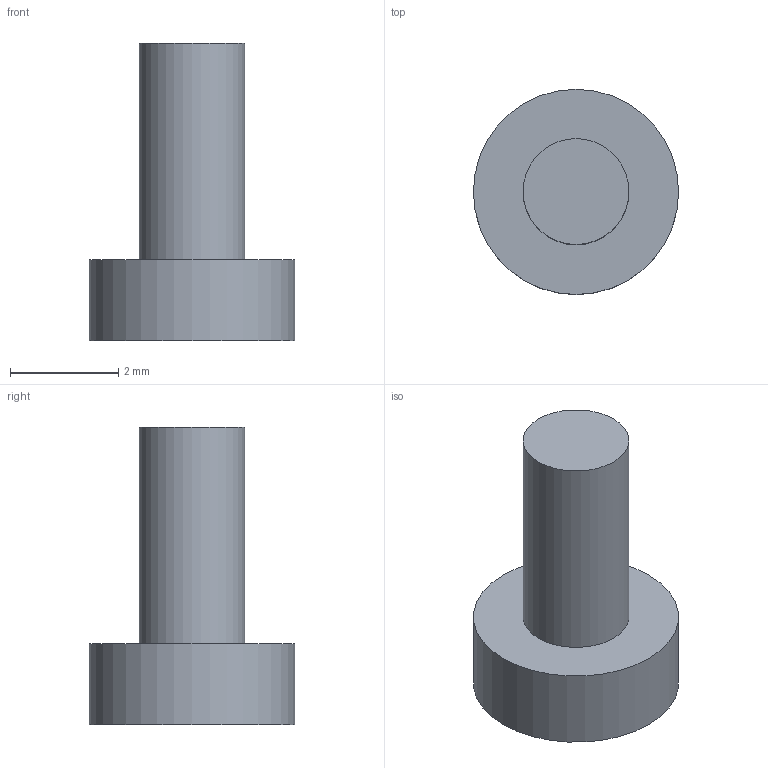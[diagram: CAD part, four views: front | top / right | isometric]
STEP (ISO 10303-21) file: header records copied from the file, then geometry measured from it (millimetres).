
FILE_DESCRIPTION(('Open CASCADE Model'),'2;1');
FILE_NAME('Open CASCADE Shape Model','2026-09-08T13:27:14',('Author'),( 'Open CASCADE'),'Open CASCADE STEP processor 7.7','Open CASCADE 7.7' ,'Unknown');
FILE_SCHEMA(('AUTOMOTIVE_DESIGN { 1 0 10303 214 1 1 1 1 }'));
Length unit declared in the file: millimetre
Products named in the file (1): Open CASCADE STEP translator 7.7 21
Bounding box: 3.8 x 3.8 x 5.5 mm (x, y, z)
Volume: 29.1 mm3; surface area: 65.2 mm2
Topology: 1 solids, 1 shells, 5 faces, 6 edges, 4 vertices
Faces by surface type: plane 3, cylinder 2
Full cylindrical faces by diameter (mm): 1.96 x1, 3.8 x1
Entity records: 192 total; most frequent: DIRECTION 34, CARTESIAN_POINT 28, ORIENTED_EDGE 12, PCURVE 12, DEFINITIONAL_REPRESENTATION 12, AXIS2_PLACEMENT_3D 10, LINE 10, VECTOR 10
